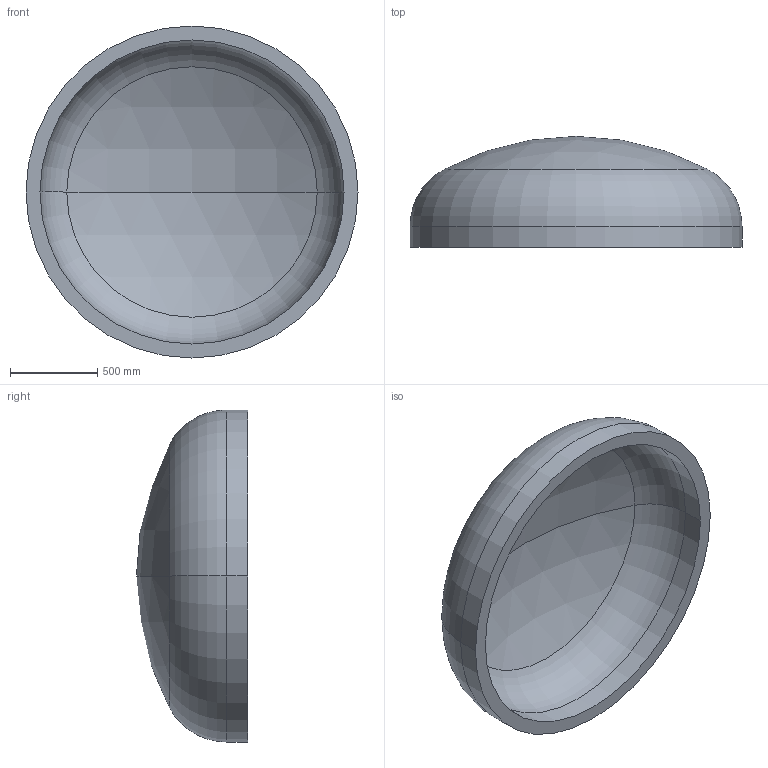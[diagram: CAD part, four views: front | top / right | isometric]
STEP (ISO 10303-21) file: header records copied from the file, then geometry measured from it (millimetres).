
FILE_DESCRIPTION (( 'STEP AP203' ), '1' );
FILE_NAME ('DIN 28013 Korbbogenform_-_Boden DIN 28013 - 1900 x 120 - I - s=80.step', '2016-07-01T13:20:38', ( '' ), ( '' ), 'SwSTEP 2.0', 'SolidWorks 2013', '' );
FILE_SCHEMA (( 'CONFIG_CONTROL_DESIGN' ));
Length unit declared in the file: millimetre
Products named in the file (1): DIN 28013 Korbbogenform_-_Boden DIN 28013 - 1900 x 120 - I - s=80
Bounding box: 1900 x 635.33 x 1900 mm (x, y, z)
Volume: 351848168.6 mm3; surface area: 9267021.8 mm2
Topology: 1 solids, 1 shells, 13 faces, 24 edges, 14 vertices
Faces by surface type: torus 4, cylinder 4, sphere 4, plane 1
Entity records: 407 total; most frequent: DIRECTION 72, CARTESIAN_POINT 52, ORIENTED_EDGE 48, AXIS2_PLACEMENT_3D 34, EDGE_CURVE 24, CIRCLE 20, VERTEX_POINT 14, EDGE_LOOP 14
